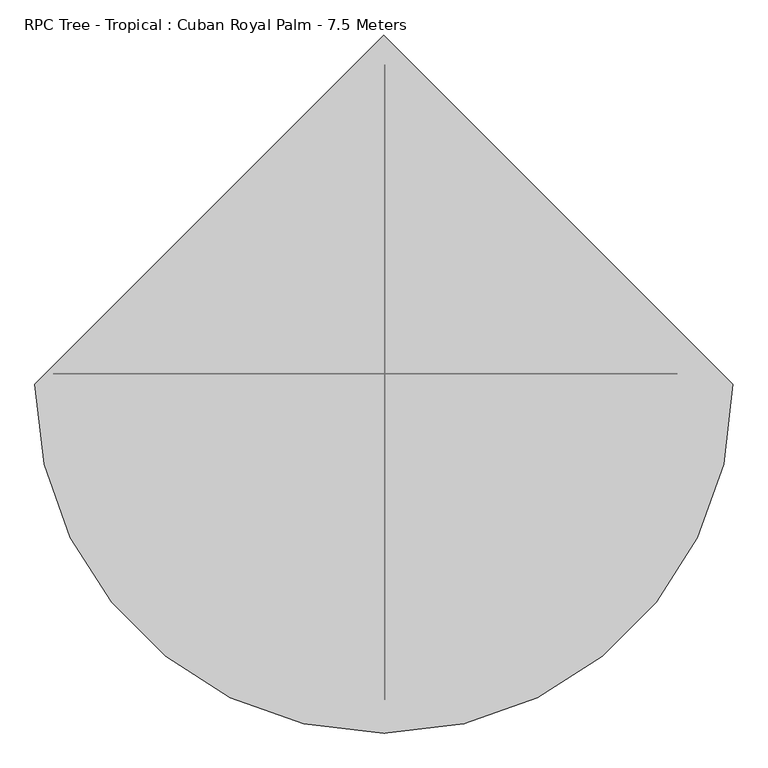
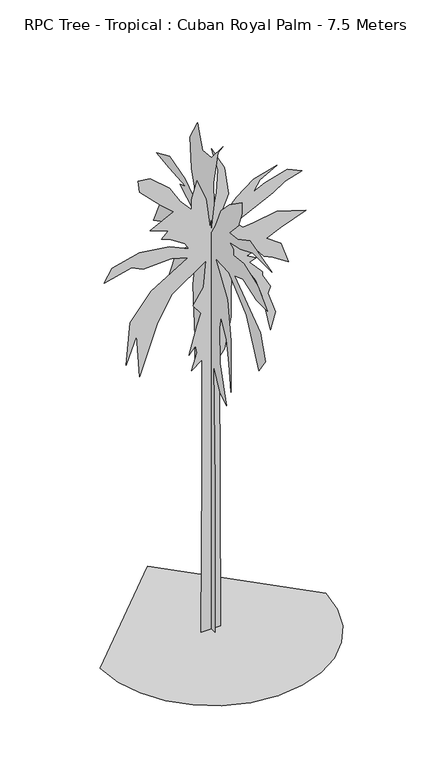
"""IFC4 building model written with IfcOpenShell, lengths in millimetres: geographic element geometry, RPC Tree - Tropical : Cuban Royal Palm - 7.5 Meters."""

import ifcopenshell
import ifcopenshell.guid

model = None  # the IFC model being written
_history = None  # IfcOwnerHistory: only IFC2X3 demands one
_inside = {}  # id of a spatial element -> (the spatial element, [elements in it])
_under = {}  # id of a project, library or spatial element -> (it, [spatial elements below it])
_declared = {}  # id of a project -> (the project, [libraries it declares])
_typed = {}  # id of a type object -> (the type object, [elements of that type])
_made_of = {}  # id of a material, layer set ... -> (it, [elements and type objects made of it])


def new_model(schema):
    """Start an empty IFC model of exactly this schema.

    Asked for "IFC4X3", IfcOpenShell would pick the latest addendum, in which some entities
    have other attributes; the version numbers below select the first issue.
    IFC2X3 requires an IfcOwnerHistory on every rooted entity: one is made here for all.
    """
    global model, _history
    if schema == "IFC4X3":
        model = ifcopenshell.file(schema_version=(4, 3, 0, 0))
    else:
        model = ifcopenshell.file(schema=schema)
    _inside.clear()
    _under.clear()
    _declared.clear()
    _typed.clear()
    _made_of.clear()
    _history = None
    if model.schema == "IFC2X3":
        org = make("IfcOrganization", Name="unknown")
        user = make(
            "IfcPersonAndOrganization",
            ThePerson=make("IfcPerson", FamilyName="unknown"),
            TheOrganization=org,
        )
        app = make(
            "IfcApplication",
            ApplicationDeveloper=org,
            Version="unknown",
            ApplicationFullName="unknown",
            ApplicationIdentifier="unknown",
        )
        _history = make(
            "IfcOwnerHistory",
            OwningUser=user,
            OwningApplication=app,
            ChangeAction="ADDED",
            CreationDate=0,
        )
    return model


def make(cls, **values):
    """One entity of the class cls with the attributes given. An attribute that is None is left unset."""
    return model.create_entity(
        cls, **{name: value for name, value in values.items() if value is not None}
    )


def rooted(cls, **values):
    """An entity with a GlobalId (a new one), such as an element, a storey or a relation."""
    return make(cls, GlobalId=ifcopenshell.guid.new(), OwnerHistory=_history, **values)


def si_unit(unit_type, name, prefix=None):
    """IfcSIUnit, for example si_unit("LENGTHUNIT", "METRE", prefix="MILLI")."""
    return make("IfcSIUnit", UnitType=unit_type, Prefix=prefix, Name=name)


def assignment(units):
    """IfcUnitAssignment: the units of a project."""
    return None if units is None else make("IfcUnitAssignment", Units=units)


def point(xyz):
    """IfcCartesianPoint."""
    return None if xyz is None else make("IfcCartesianPoint", Coordinates=xyz)


def direction(xyz):
    """IfcDirection."""
    return None if xyz is None else make("IfcDirection", DirectionRatios=xyz)


def frame(location, z_axis=None, x_axis=None):
    """IfcAxis2Placement3D, a coordinate frame: its origin and axes. An axis left out is left unset."""
    return make(
        "IfcAxis2Placement3D",
        Location=point(location),
        Axis=direction(z_axis),
        RefDirection=direction(x_axis),
    )


def origin():
    """The frame at (0, 0, 0) with its axes left unset."""
    return frame((0.0, 0.0, 0.0))


def place(relative_to, where):
    """IfcLocalPlacement: puts the frame where relative to a parent placement (None: the world)."""
    return make(
        "IfcLocalPlacement", PlacementRelTo=relative_to, RelativePlacement=where
    )


def context(
    kind, dimensions, precision=None, world=None, true_north=None, identifier=None
):
    """IfcGeometricRepresentationContext, for example the 3D "Model" context."""
    return make(
        "IfcGeometricRepresentationContext",
        ContextIdentifier=identifier,
        ContextType=kind,
        CoordinateSpaceDimension=dimensions,
        Precision=precision,
        WorldCoordinateSystem=world,
        TrueNorth=true_north,
    )


def project(units=None, contexts=None):
    """IfcProject with its units and contexts."""
    return rooted(
        "IfcProject",
        Name="project",
        RepresentationContexts=contexts,
        UnitsInContext=assignment(units),
    )


def spatial(cls, under=None, at=None, **own):
    """A site, building, storey or space (cls), placed at a placement, below another one or the project."""
    s = rooted(cls, ObjectPlacement=at, **own)
    if under is not None:
        _under.setdefault(under.id(), (under, []))[1].append(s)
    return s


def point_list(points):
    """IfcCartesianPointList2D or 3D."""
    cls = (
        "IfcCartesianPointList2D" if len(points[0]) == 2 else "IfcCartesianPointList3D"
    )
    return make(cls, CoordList=points)


def triangles(points, corners, closed=None, point_numbers=None):
    """IfcTriangulatedFaceSet: each triangle names its three corners, points numbered from 1."""
    return make(
        "IfcTriangulatedFaceSet",
        Coordinates=point_list(points),
        Closed=closed,
        CoordIndex=corners,
        PnIndex=point_numbers,
    )


def shape(context_of_items, identifier, shape_type, items):
    """IfcShapeRepresentation: the items that make up one representation, for example the "Body"."""
    return make(
        "IfcShapeRepresentation",
        ContextOfItems=context_of_items,
        RepresentationIdentifier=identifier,
        RepresentationType=shape_type,
        Items=items,
    )


def source(mapping_origin, context_of_items, identifier, shape_type, items):
    """IfcRepresentationMap: a shape defined once, which mapped items show again and again."""
    return make(
        "IfcRepresentationMap",
        MappingOrigin=mapping_origin,
        MappedRepresentation=shape(context_of_items, identifier, shape_type, items),
    )


def transform(
    local_origin,
    x_axis=None,
    y_axis=None,
    z_axis=None,
    scale=None,
    scale2=None,
    scale3=None,
    uniform=True,
):
    """IfcCartesianTransformationOperator3D, or its non-uniform kind. x_axis, y_axis, z_axis: its Axis1, 2, 3."""
    if uniform:
        return make(
            "IfcCartesianTransformationOperator3D",
            Axis1=direction(x_axis),
            Axis2=direction(y_axis),
            LocalOrigin=point(local_origin),
            Scale=scale,
            Axis3=direction(z_axis),
        )
    return make(
        "IfcCartesianTransformationOperator3DnonUniform",
        Axis1=direction(x_axis),
        Axis2=direction(y_axis),
        LocalOrigin=point(local_origin),
        Scale=scale,
        Axis3=direction(z_axis),
        Scale2=scale2,
        Scale3=scale3,
    )


def mapped(mapping_source, mapping_target):
    """IfcMappedItem: shows the shape of a source again, moved by a transform."""
    return make(
        "IfcMappedItem", MappingSource=mapping_source, MappingTarget=mapping_target
    )


def made_of(thing, what):
    """Note that an element or type object is made of a material, layer set ...; save() writes the relation."""
    if what is not None:
        _made_of.setdefault(what.id(), (what, []))[1].append(thing)
    return thing


def element(
    cls,
    number,
    at=None,
    inside=None,
    cuts=None,
    type_object=None,
    material=None,
    context=None,
    identifier="Body",
    shape_type=None,
    held_by="IfcProductDefinitionShape",
    body=None,
    shapes=None,
    **own,
):
    """One element of the class cls, such as IfcWall. Its Tag is "e" and its number.

    at: its placement. inside: the storey or other place that contains it. cuts: it is an
    opening in that element (IfcRelVoidsElement). A single representation is given by context,
    identifier, shape_type and body (its items); several are given by shapes. held_by: the class
    of the entity that holds the representations. save() writes the other relations.
    """
    e = rooted(cls, Tag="e%d" % number, ObjectPlacement=at, **own)
    if body is not None:
        shapes = [shape(context, identifier, shape_type, body)]
    if shapes is not None:
        e.Representation = make(held_by, Representations=shapes)
    if inside is not None:
        _inside.setdefault(inside.id(), (inside, []))[1].append(e)
    if cuts is not None:
        rooted(
            "IfcRelVoidsElement", RelatingBuildingElement=cuts, RelatedOpeningElement=e
        )
    if type_object is not None:
        _typed.setdefault(type_object.id(), (type_object, []))[1].append(e)
    return made_of(e, material)


def aggregate(whole, parts):
    """IfcRelAggregates: a whole, such as a stair, and the parts it consists of."""
    return rooted("IfcRelAggregates", RelatingObject=whole, RelatedObjects=parts)


def save(model, path):
    """Write the relations noted so far, then the file.

    IfcRelAggregates (storeys below a building ...), IfcRelContainedInSpatialStructure (elements
    in a storey), IfcRelDefinesByType, IfcRelAssociatesMaterial and IfcRelDeclares: one each for
    every whole, place, type object, material and project.
    """
    for whole, parts in _under.values():
        aggregate(whole, parts)
    for where, things in _inside.values():
        rooted(
            "IfcRelContainedInSpatialStructure",
            RelatedElements=things,
            RelatingStructure=where,
        )
    for kind, things in _typed.values():
        rooted("IfcRelDefinesByType", RelatedObjects=things, RelatingType=kind)
    for what, things in _made_of.values():
        rooted("IfcRelAssociatesMaterial", RelatedObjects=things, RelatingMaterial=what)
    for by, libraries in _declared.values():
        rooted("IfcRelDeclares", RelatingContext=by, RelatedDefinitions=libraries)
    model.write(path)


def rpc_tree_tropical_cuban_royal_palm_7_5_meters_25244156(model_context):
    return source(origin(), model_context, "Body", "Tessellation", [
        triangles([(-53.329521, -0.0172155, 0.0009289), (-147.4824223, -0.0172239, 0.000933), (-128.6516948, -0.0176557, 2455.3623367), (-128.6514405, -0.0179554, 4131.270797), (-279.295543, -0.0179286, 4018.2957161), (-203.9743774, -0.0179756, 4263.0955994), (-222.8043509, -0.017995, 4376.0703896), (-316.9579788, -0.0179707, 4263.0955994), (-203.974123, -0.0180497, 4677.3703125), (-147.482177, -0.0180825, 4846.8451424), (-260.4655695, -0.0181045, 4997.4949585), (-109.8212127, -0.0181515, 5223.4445389), (-72.1600031, -0.0182238, 5618.8942383), (-561.755246, -0.0181418, 5279.9445786), (-768.8900591, -0.0180688, 4922.1699051), (-1032.519825, -0.017926, 4187.770546), (-1070.1797356, -0.0180388, 4828.0201286), (-1220.8246101, -0.0179615, 4432.5704292), (-1164.3346716, -0.0180751, 5053.9699997), (-863.0449951, -0.0181556, 5430.5946854), (-335.7879704, -0.0182359, 5750.7193314), (-580.5852376, -0.0182387, 5826.0438034), (-976.027343, -0.018218, 5807.1937912), (-1145.5021729, -0.0182241, 5882.5188446), (-1540.9443146, -0.0181899, 5788.3687775), (-1427.9618214, -0.0182286, 5976.6689117), (-1032.519825, -0.0182627, 6070.8439774), (-599.4151929, -0.0182715, 6014.3439377), (-316.9579788, -0.0182603, 5882.5188446), (-373.4504245, -0.0182746, 5976.6689117), (-599.4151929, -0.0182917, 6127.3184372), (-712.4001205, -0.0182935, 6164.9934631), (-618.247728, -0.0183145, 6259.1435303), (-881.8749504, -0.0183198, 6353.2935974), (-542.9252543, -0.0183649, 6522.7681366), (-731.2300758, -0.018387, 6692.2432571), (-1032.519825, -0.0184277, 6993.5428894), (-1051.3497803, -0.0184571, 7163.0174286), (-881.8749504, -0.0184612, 7144.1674164), (-599.4151929, -0.0184298, 6899.3678238), (-448.7703547, -0.0183926, 6654.5682312), (-279.295543, -0.0183663, 6466.2680969), (-279.295543, -0.0183932, 6616.9182037), (-203.974123, -0.0184437, 6880.5428101), (-72.1600031, -0.0183922, 6560.4181641), (-15.6683375, -0.0183139, 6108.4934235), (78.4845898, -0.0184055, 6598.09319), (97.3153263, -0.018467, 6937.0428497), (3.162393, -0.0185268, 7294.8175232), (191.4682185, -0.0184711, 6937.0428497), (247.9601555, -0.0183995, 6522.7681366), (78.4845898, -0.018318, 6108.4934235), (360.9438114, -0.0183876, 6428.6186508), (605.7410422, -0.0184319, 6616.9182037), (944.6906656, -0.0184636, 6711.0682709), (699.8933985, -0.0184293, 6579.2681763), (605.7410422, -0.0183983, 6428.6186508), (775.2158358, -0.0184191, 6503.9431229), (1095.3355402, -0.01845, 6598.09319), (1302.4728241, -0.0184422, 6503.9431229), (1057.6755569, -0.018418, 6428.6186508), (888.2007271, -0.0183904, 6315.6185715), (342.1138198, -0.0183194, 6051.9939651), (455.096204, -0.0183041, 5939.0188843), (605.7410422, -0.0183141, 5957.843898), (944.6906656, -0.018339, 6014.3439377), (1358.9653061, -0.0183335, 5882.5188446), (1001.1831476, -0.0182943, 5750.7193314), (794.0457911, -0.0182684, 5656.5692642), (1001.1831476, -0.0182506, 5505.9191574), (1114.1654955, -0.0181983, 5185.7945114), (888.2007271, -0.0182153, 5336.4446182), (756.3858805, -0.0182197, 5392.9196594), (605.7410422, -0.0182467, 5581.2442108), (605.7410422, -0.0182366, 5524.7441711), (511.5886497, -0.0182258, 5487.0941437), (643.4009892, -0.0182181, 5411.7696716), (549.2486329, -0.0182072, 5374.0946457), (737.5558525, -0.0181784, 5166.9694977), (737.5558525, -0.0181683, 5110.469458), (850.538273, -0.0181362, 4903.3448914), (812.8782898, -0.0181177, 4809.1951149), (925.8607103, -0.0180654, 4489.0704689), (850.538273, -0.0180184, 4244.2705856), (737.5558525, -0.0181111, 4790.3451027), (643.4009892, -0.0181575, 5072.8200119), (473.9261956, -0.0182006, 5355.269632), (304.4513476, -0.0182066, 5430.5946854), (285.6213741, -0.0181385, 5053.9699997), (285.6213741, -0.0180644, 4639.720285), (191.4682185, -0.0179795, 4187.770546), (116.1457994, -0.0179593, 4093.6207695), (134.9762815, -0.0172295, 0.0009206), (0.1930215, 88.1876585, 0.0004872), (0.1930211, 161.0565755, 0.0005002), (0.1930215, 161.0565755, 1798.0106003), (0.1930235, 142.8396006, 4220.8955589), (0.1930219, 215.7080362, 4111.5958351), (0.1930238, 397.879602, 3729.0212219), (0.1930224, 397.879602, 4184.4707474), (0.1930226, 452.5320436, 4949.5949753), (0.1930212, 379.6621093, 5477.8941238), (0.1930204, 525.3994709, 5313.919249), (0.1930227, 780.4416796, 4785.6201004), (0.1930231, 1071.9164028, 4421.295536), (0.193021, 1290.521228, 4075.1707329), (0.1930224, 1035.4814175, 4767.4200485), (0.193022, 871.5265995, 5168.1944229), (0.193022, 507.1819782, 5532.5442764), (0.1930205, 671.1367962, 5496.0941757), (0.1930222, 889.7440922, 5477.8941238), (0.1930219, 1090.1338955, 5514.3192261), (0.1930219, 1436.2610241, 5332.1442993), (0.1930208, 1254.0887135, 5732.9192551), (0.1930227, 1053.6989101, 5732.9192551), (0.1930224, 980.8290121, 6042.618956), (0.1930219, 634.7043543, 5969.7437531), (0.1930206, 416.0970583, 6079.0434769), (0.1930204, 780.4416796, 6279.443454), (0.1930236, 634.7043543, 6334.0936066), (0.1930213, 1035.4814175, 6370.5187088), (0.193023, 1363.3910534, 6406.9682281), (0.1930222, 1035.4814175, 6552.6930542), (0.193022, 652.921847, 6443.3933304), (0.1930203, 343.2271603, 6224.7933014), (0.1930224, 488.9669927, 6698.4428787), (0.1930226, 525.3994709, 7153.8674057), (0.1930219, 343.2271603, 7481.7671585), (0.1930226, 306.794682, 7372.4674347), (0.1930225, 215.7080362, 7135.6423553), (0.1930209, -2.898197, 7153.8674057), (0.1930232, -294.3722026, 7499.9922089), (0.1930217, -166.8530786, 7336.0423325), (0.1930211, -57.5496894, 6807.7431839), (0.193021, -75.7669232, 6498.043483), (0.1930205, 15.3189596, 5987.9688034), (0.1930237, -112.2016361, 6188.343782), (0.1930209, -239.7217594, 6498.043483), (0.1930209, -458.3270388, 6716.6429306), (0.1930205, -768.019182, 6935.2679581), (0.1930205, -768.019182, 6771.2930832), (0.1930212, -676.9343348, 6534.4930023), (0.1930204, -458.3270388, 6297.6685043), (0.1930231, -658.7168421, 6315.8685562), (0.1930203, -968.4089853, 6479.8184326), (0.193022, -1514.9259899, 6334.0936066), (0.1930214, -1041.278956, 6334.0936066), (0.1930223, -731.5867401, 6206.5688324), (0.1930212, -458.3270388, 6151.9186798), (0.1930219, -549.4144295, 6097.2685272), (0.1930215, -549.4144295, 6006.1938538), (0.1930218, -822.67166, 6042.618956), (0.1930224, -1168.7987886, 5915.0941818), (0.193023, -1405.6210339, 5678.2691025), (0.1930208, -1132.3638033, 5678.2691025), (0.1930229, -786.2366747, 5787.5688263), (0.1930214, -585.8493785, 5714.7192032), (0.1930226, -1223.451194, 5241.0696259), (0.1930224, -1350.971172, 4876.720063), (0.1930228, -1187.0162813, 4639.8952744), (0.1930223, -877.3240654, 5295.7197784), (0.1930226, -440.1120532, 5678.2691025), (0.1930235, -112.2016361, 5696.4941528), (0.1930228, -403.6770679, 5241.0696259), (0.1930226, -494.7619878, 4676.3200859), (0.1930204, -494.7619878, 3892.9960968), (0.1930225, -440.1120532, 4293.7704712), (0.1930215, -385.4596115, 4621.670224), (0.1930212, -239.7217594, 4876.720063), (0.1930219, -203.2872827, 4694.5451363), (0.1930229, -221.504521, 4166.245697), (0.1930203, -385.4596115, 3619.7212074), (0.1930216, -221.504521, 3729.0212219), (0.1930209, -57.5496894, 4038.7209229), (0.1930231, -93.9844068, 2253.4402142), (0.1930206, -93.9844068, 0.0004546), (-1626.8666862, -48.3554514, 0.0005339), (-1583.9691593, -420.1520797, 0.0004655), (-1461.7992908, -761.5891966, 0.0003991), (-1270.1394779, -1062.8838873, 0.0003369), (-1018.7723356, -1314.2511749, 0.0002809), (-717.4776449, -1505.9109879, 0.0002335), (-376.0429261, -1628.0808563, 0.0001967), (-4.2444493, -1670.9782379, 0.0001728), (367.5538004, -1628.0808563, 0.0001642), (708.9884102, -1505.9109879, 0.0001711), (1010.2831009, -1314.2511749, 0.0001922), (1261.6503159, -1062.8838873, 0.0002262), (1453.3101288, -761.5891966, 0.0002717), (1575.4799973, -420.1520797, 0.0003274), (1618.3775242, -48.3554514, 0.000392), (-4.2447494, 1574.2658272, 0.000298)], [[54, 55, 56], [48, 49, 50], [17, 18, 19], [15, 16, 17], [7, 8, 9], [83, 84, 85], [82, 83, 85], [4, 5, 6], [70, 71, 72], [66, 67, 68], [43, 44, 45], [59, 60, 61], [24, 25, 26], [24, 26, 27], [33, 34, 35], [76, 77, 78], [58, 59, 61], [58, 61, 62], [31, 32, 33], [42, 43, 45], [42, 45, 46], [37, 38, 39], [54, 56, 57], [53, 54, 57], [23, 24, 27], [23, 27, 28], [22, 23, 28], [22, 28, 29], [21, 22, 29], [58, 62, 63], [57, 58, 63], [53, 57, 63], [52, 53, 63], [36, 37, 39], [36, 39, 40], [36, 40, 41], [35, 36, 41], [35, 41, 42], [69, 70, 72], [69, 72, 73], [69, 73, 74], [65, 66, 68], [65, 68, 69], [65, 69, 74], [64, 65, 74], [47, 48, 50], [47, 50, 51], [46, 47, 51], [46, 51, 52], [33, 35, 42], [82, 85, 86], [81, 82, 86], [80, 81, 86], [33, 42, 46], [31, 33, 46], [30, 31, 46], [29, 30, 46], [15, 17, 19], [15, 19, 20], [14, 15, 20], [14, 20, 21], [13, 14, 21], [92, 93, 1], [92, 1, 2], [92, 2, 3], [92, 3, 4], [80, 86, 87], [79, 80, 87], [78, 79, 87], [76, 78, 87], [76, 87, 88], [13, 21, 29], [13, 29, 46], [13, 46, 52], [13, 52, 63], [13, 63, 64], [13, 64, 74], [13, 74, 75], [13, 75, 76], [13, 76, 88], [12, 13, 88], [12, 88, 89], [11, 12, 89], [10, 11, 89], [10, 89, 90], [9, 10, 90], [9, 90, 91], [7, 9, 91], [6, 7, 91], [4, 6, 91], [92, 4, 91], [131, 132, 133], [165, 166, 167], [105, 106, 107], [145, 146, 147], [165, 167, 168], [98, 99, 100], [131, 133, 134], [121, 122, 123], [104, 105, 107], [112, 113, 114], [171, 172, 173], [171, 173, 174], [153, 154, 155], [127, 128, 129], [118, 119, 120], [112, 114, 115], [139, 140, 141], [139, 141, 142], [159, 160, 161], [158, 159, 161], [157, 158, 161], [157, 161, 162], [104, 107, 108], [103, 104, 108], [103, 108, 109], [102, 103, 109], [127, 129, 130], [121, 123, 124], [120, 121, 124], [120, 124, 125], [118, 120, 125], [153, 155, 156], [152, 153, 156], [151, 152, 156], [151, 156, 157], [126, 127, 130], [145, 147, 148], [144, 145, 148], [144, 148, 149], [143, 144, 149], [139, 142, 143], [138, 139, 143], [137, 138, 143], [137, 143, 149], [175, 176, 94], [175, 94, 95], [175, 95, 96], [175, 96, 97], [174, 175, 97], [111, 112, 115], [115, 116, 117], [111, 115, 117], [110, 111, 117], [109, 110, 117], [165, 168, 169], [164, 165, 169], [130, 131, 134], [126, 130, 134], [126, 134, 135], [125, 126, 135], [125, 135, 136], [118, 125, 136], [151, 157, 162], [171, 174, 97], [170, 171, 97], [109, 117, 118], [109, 118, 136], [102, 109, 136], [97, 98, 100], [97, 100, 101], [170, 97, 101], [169, 170, 101], [169, 101, 102], [164, 169, 102], [163, 164, 102], [163, 102, 136], [151, 162, 163], [151, 163, 136], [151, 136, 137], [151, 137, 149], [151, 149, 150], [191, 192, 177], [190, 191, 177], [190, 177, 178], [189, 190, 178], [189, 178, 179], [189, 179, 180], [188, 189, 180], [187, 188, 180], [187, 180, 181], [187, 181, 182], [187, 182, 183], [187, 183, 184], [187, 184, 185], [187, 185, 186]], closed=False),
    ])


if __name__ == "__main__":
    model = new_model("IFC4")
    model_context = context("Model", 3, world=origin())
    ifc_project = project(units=[si_unit("LENGTHUNIT", "METRE", prefix="MILLI")], contexts=[model_context])
    site = spatial("IfcSite", under=ifc_project)
    building = spatial("IfcBuilding", under=site)
    placement = place(None, origin())
    rpc_tree_tropical_cuban_royal_palm_7_5_meters_shape = rpc_tree_tropical_cuban_royal_palm_7_5_meters_25244156(model_context)
    element("IfcGeographicElement", 1, ObjectType="RPC Tree - Tropical : Cuban Royal Palm - 7.5 Meters", at=placement, inside=building, context=model_context, shape_type="MappedRepresentation", body=[
        mapped(rpc_tree_tropical_cuban_royal_palm_7_5_meters_shape, transform((0.0, 0.0, 0.0), x_axis=(1.0, 0.0, 0.0), y_axis=(0.0, 1.0, 0.0), z_axis=(0.0, 0.0, 1.0))),
    ])
    save(model, "model.ifc")
